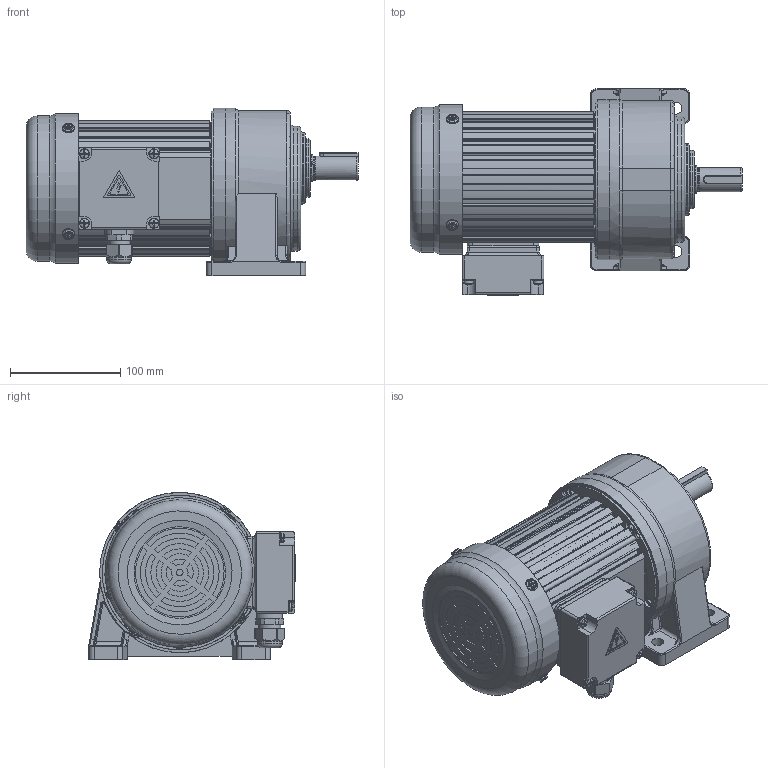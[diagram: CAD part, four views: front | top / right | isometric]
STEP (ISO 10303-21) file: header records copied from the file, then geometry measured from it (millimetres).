
FILE_DESCRIPTION(/* description */ (''),/* implementation_level */ '2;1');
FILE_NAME(/* name */ 'CH22-200-3～200外形多速比.stp',/* time_stamp */ '2025-04-30T14:38:27+08:00',/* author */ (''),/* organization */ (''),/* preprocessor_version */ 'ST-DEVELOPER v18.102',/* originating_system */ 'SIEMENS PLM Software NX 2027',/* authorisation */ '');
FILE_SCHEMA (('AP203_CONFIGURATION_CONTROLLED_3D_DESIGN_OF_MECHANICAL_PARTS_AND_ASSEMBLIES_MIM_LF { 1 0 10303 403 2 1 2}'));
Length unit declared in the file: millimetre
Products named in the file (1): CH22-200-3～200外形多速比_obj
ects
Bounding box: 301.3 x 187.25 x 151.75 mm (x, y, z)
Volume: 3591057.5 mm3; surface area: 317518.4 mm2
Topology: 6 solids, 6 shells, 2227 faces, 5638 edges, 3483 vertices
Faces by surface type: plane 1000, cylinder 602, cone 240, torus 184, bspline 169, sphere 16, revolution 16
Full cylindrical faces by diameter (mm): 3 x2, 4.2 x12, 4.336 x2, 4.6 x4, 4.826 x4, 5 x6, 5.795 x5, 6 x5, 6.4 x4, 7 x4, 8.5 x4, 9 x4, 10 x5, 11 x13, 13.98 x1, 14.5 x1, 17 x2, 20 x1, 21 x1, 21.6 x1, 22 x1, 22.5 x1, 25 x1, 40 x1, 50 x1, 53 x1, 65 x1, 110.5 x2, 113.5 x1, 132 x1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
Entity records: 70684 total; most frequent: CARTESIAN_POINT 19566, ORIENTED_EDGE 10718, DIRECTION 10309, EDGE_CURVE 5359, AXIS2_PLACEMENT_3D 3950, VERTEX_POINT 3410, EDGE_LOOP 2504, LINE 2393
